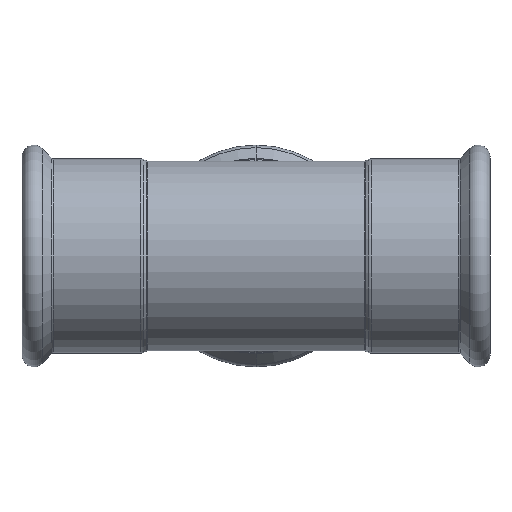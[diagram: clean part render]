
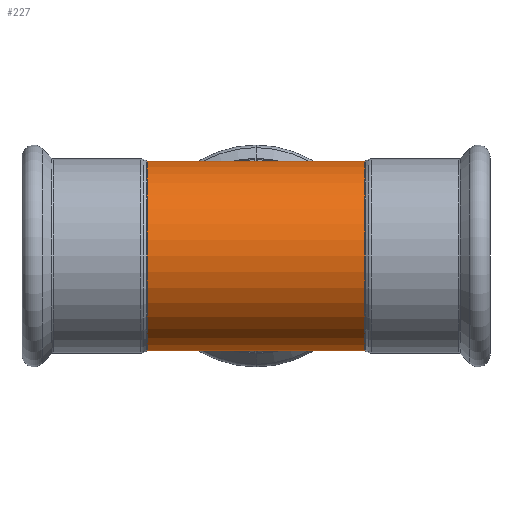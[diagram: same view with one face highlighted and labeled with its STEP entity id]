
A CAD part, front view. The second image highlights one B-rep face of the part: STEP entity #227.
In plain terms, the highlighted cylindrical face has radius 28 mm (diameter 56 mm), a partial arc.
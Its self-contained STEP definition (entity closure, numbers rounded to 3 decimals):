
#93 = CARTESIAN_POINT ( 'NONE',  ( 27.146, 0., 28. ) ) ;
#129 = EDGE_CURVE ( 'NONE', #2096, #3453, #2780, .T. ) ;
#185 = FACE_OUTER_BOUND ( 'NONE', #1080, .T. ) ;
#219 = EDGE_CURVE ( 'NONE', #3507, #668, #2345, .T. ) ;
#227 = ADVANCED_FACE ( 'NONE', ( #185 ), #304, .T. ) ;
#245 = VECTOR ( 'NONE', #1231, 1000. ) ;
#304 = CYLINDRICAL_SURFACE ( 'NONE', #1319, 28. ) ;
#308 = CARTESIAN_POINT ( 'NONE',  ( 32.06, 0., 28. ) ) ;
#364 = ORIENTED_EDGE ( 'NONE', *, *, #1698, .F. ) ;
#476 = CIRCLE ( 'NONE', #2205, 28. ) ;
#608 = CARTESIAN_POINT ( 'NONE',  ( 32.06, 0., 0. ) ) ;
#668 = VERTEX_POINT ( 'NONE', #2816 ) ;
#716 = VERTEX_POINT ( 'NONE', #308 ) ;
#729 = DIRECTION ( 'NONE',  ( -1., 0., 0. ) ) ;
#734 = CARTESIAN_POINT ( 'NONE',  ( -32.06, 0., 28. ) ) ;
#761 = CARTESIAN_POINT ( 'NONE',  ( 27.146, 0., 0. ) ) ;
#795 = DIRECTION ( 'NONE',  ( -1., 0., 0. ) ) ;
#898 = LINE ( 'NONE', #1792, #245 ) ;
#922 = ORIENTED_EDGE ( 'NONE', *, *, #3296, .T. ) ;
#988 = LINE ( 'NONE', #93, #1081 ) ;
#1080 = EDGE_LOOP ( 'NONE', ( #1422, #1197, #1120, #922, #1449, #364 ) ) ;
#1081 = VECTOR ( 'NONE', #2332, 1000. ) ;
#1120 = ORIENTED_EDGE ( 'NONE', *, *, #3424, .T. ) ;
#1146 = DIRECTION ( 'NONE',  ( 0., 0., 1. ) ) ;
#1156 = CARTESIAN_POINT ( 'NONE',  ( -32.06, 0., -28. ) ) ;
#1197 = ORIENTED_EDGE ( 'NONE', *, *, #3167, .T. ) ;
#1231 = DIRECTION ( 'NONE',  ( -1., 0., 0. ) ) ;
#1257 = CARTESIAN_POINT ( 'NONE',  ( 32.06, 0., -28. ) ) ;
#1319 = AXIS2_PLACEMENT_3D ( 'NONE', #761, #1893, #2427 ) ;
#1422 = ORIENTED_EDGE ( 'NONE', *, *, #219, .F. ) ;
#1434 = CARTESIAN_POINT ( 'NONE',  ( -32.06, 0., 0. ) ) ;
#1443 = DIRECTION ( 'NONE',  ( -1., 0., 0. ) ) ;
#1449 = ORIENTED_EDGE ( 'NONE', *, *, #129, .F. ) ;
#1494 = VERTEX_POINT ( 'NONE', #3301 ) ;
#1501 = AXIS2_PLACEMENT_3D ( 'NONE', #1434, #2807, #1146 ) ;
#1653 = VECTOR ( 'NONE', #795, 1000. ) ;
#1698 = EDGE_CURVE ( 'NONE', #668, #2096, #2650, .T. ) ;
#1792 = CARTESIAN_POINT ( 'NONE',  ( 27.146, 0., 28. ) ) ;
#1893 = DIRECTION ( 'NONE',  ( -1., 0., 0. ) ) ;
#2096 = VERTEX_POINT ( 'NONE', #1156 ) ;
#2205 = AXIS2_PLACEMENT_3D ( 'NONE', #608, #1443, #2832 ) ;
#2332 = DIRECTION ( 'NONE',  ( -1., 0., 0. ) ) ;
#2345 = LINE ( 'NONE', #2462, #1653 ) ;
#2427 = DIRECTION ( 'NONE',  ( 0., 0., 1. ) ) ;
#2462 = CARTESIAN_POINT ( 'NONE',  ( 27.146, 0., -28. ) ) ;
#2650 = LINE ( 'NONE', #2662, #3234 ) ;
#2662 = CARTESIAN_POINT ( 'NONE',  ( 27.146, 0., -28. ) ) ;
#2780 = CIRCLE ( 'NONE', #1501, 28. ) ;
#2807 = DIRECTION ( 'NONE',  ( -1., 0., 0. ) ) ;
#2816 = CARTESIAN_POINT ( 'NONE',  ( 0., 0., -28. ) ) ;
#2832 = DIRECTION ( 'NONE',  ( 0., 0., 1. ) ) ;
#3167 = EDGE_CURVE ( 'NONE', #3507, #716, #476, .T. ) ;
#3234 = VECTOR ( 'NONE', #729, 1000. ) ;
#3296 = EDGE_CURVE ( 'NONE', #1494, #3453, #988, .T. ) ;
#3301 = CARTESIAN_POINT ( 'NONE',  ( 0., 0., 28. ) ) ;
#3424 = EDGE_CURVE ( 'NONE', #716, #1494, #898, .T. ) ;
#3453 = VERTEX_POINT ( 'NONE', #734 ) ;
#3507 = VERTEX_POINT ( 'NONE', #1257 ) ;
